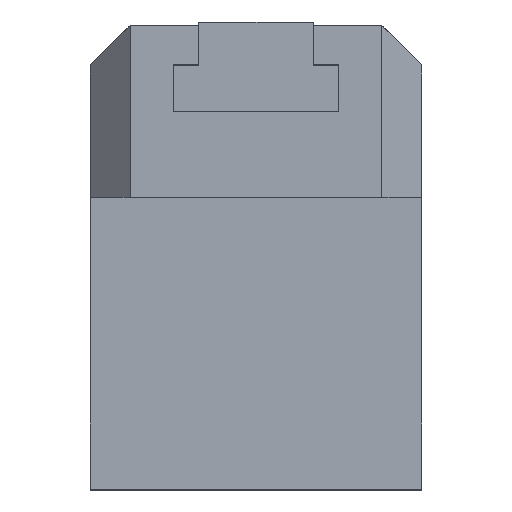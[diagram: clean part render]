
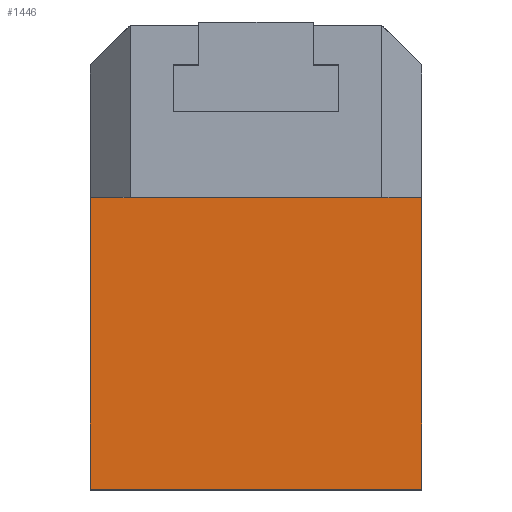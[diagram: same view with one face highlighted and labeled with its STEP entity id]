
A CAD part, top view. The second image highlights one B-rep face of the part: STEP entity #1446.
In plain terms, the highlighted planar face has unit normal (0, 0, 1).
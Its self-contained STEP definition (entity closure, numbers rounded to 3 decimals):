
#1019 = EDGE_CURVE ( 'NONE', #1022, #3123, #4017, .T. ) ;
#1022 = VERTEX_POINT ( 'NONE', #4140 ) ;
#1446 = ADVANCED_FACE ( 'NONE', ( #4706 ), #4721, .F. ) ;
#1448 = ORIENTED_EDGE ( 'NONE', *, *, #1019, .T. ) ;
#1449 = EDGE_CURVE ( 'NONE', #3219, #1022, #4717, .T. ) ;
#1450 = ORIENTED_EDGE ( 'NONE', *, *, #3129, .T. ) ;
#1474 = ORIENTED_EDGE ( 'NONE', *, *, #3052, .F. ) ;
#1573 = ORIENTED_EDGE ( 'NONE', *, *, #1449, .T. ) ;
#1657 = EDGE_LOOP ( 'NONE', ( #1573, #1448, #1450, #1474 ) ) ;
#2951 = VERTEX_POINT ( 'NONE', #5025 ) ;
#3052 = EDGE_CURVE ( 'NONE', #3219, #2951, #5161, .T. ) ;
#3123 = VERTEX_POINT ( 'NONE', #5220 ) ;
#3129 = EDGE_CURVE ( 'NONE', #3123, #2951, #5248, .T. ) ;
#3219 = VERTEX_POINT ( 'NONE', #5359 ) ;
#3432 = DIRECTION ( 'NONE',  ( 0., -1., 0. ) ) ;
#4017 = LINE ( 'NONE', #4026, #4025 ) ;
#4025 = VECTOR ( 'NONE', #3432, 1000. ) ;
#4026 = CARTESIAN_POINT ( 'NONE',  ( -50., 247.703, 77. ) ) ;
#4140 = CARTESIAN_POINT ( 'NONE',  ( -50., 88., 77. ) ) ;
#4625 = DIRECTION ( 'NONE',  ( -1., 0., 0. ) ) ;
#4626 = VECTOR ( 'NONE', #4625, 1000. ) ;
#4629 = DIRECTION ( 'NONE',  ( -1., 0., 0. ) ) ;
#4630 = DIRECTION ( 'NONE',  ( 0., 0., -1. ) ) ;
#4631 = CARTESIAN_POINT ( 'NONE',  ( 50., 247.703, 77. ) ) ;
#4706 = FACE_OUTER_BOUND ( 'NONE', #1657, .T. ) ;
#4711 = AXIS2_PLACEMENT_3D ( 'NONE', #4631, #4630, #4629 ) ;
#4716 = CARTESIAN_POINT ( 'NONE',  ( 50., 88., 77. ) ) ;
#4717 = LINE ( 'NONE', #4716, #4626 ) ;
#4721 = PLANE ( 'NONE',  #4711 ) ;
#5025 = CARTESIAN_POINT ( 'NONE',  ( 50., 0., 77. ) ) ;
#5151 = DIRECTION ( 'NONE',  ( 0., -1., 0. ) ) ;
#5152 = VECTOR ( 'NONE', #5151, 1000. ) ;
#5160 = CARTESIAN_POINT ( 'NONE',  ( 50., 247.703, 77. ) ) ;
#5161 = LINE ( 'NONE', #5160, #5152 ) ;
#5220 = CARTESIAN_POINT ( 'NONE',  ( -50., 0., 77. ) ) ;
#5245 = DIRECTION ( 'NONE',  ( 1., 0., 0. ) ) ;
#5246 = VECTOR ( 'NONE', #5245, 1000. ) ;
#5247 = CARTESIAN_POINT ( 'NONE',  ( 50., 0., 77. ) ) ;
#5248 = LINE ( 'NONE', #5247, #5246 ) ;
#5359 = CARTESIAN_POINT ( 'NONE',  ( 50., 88., 77. ) ) ;
